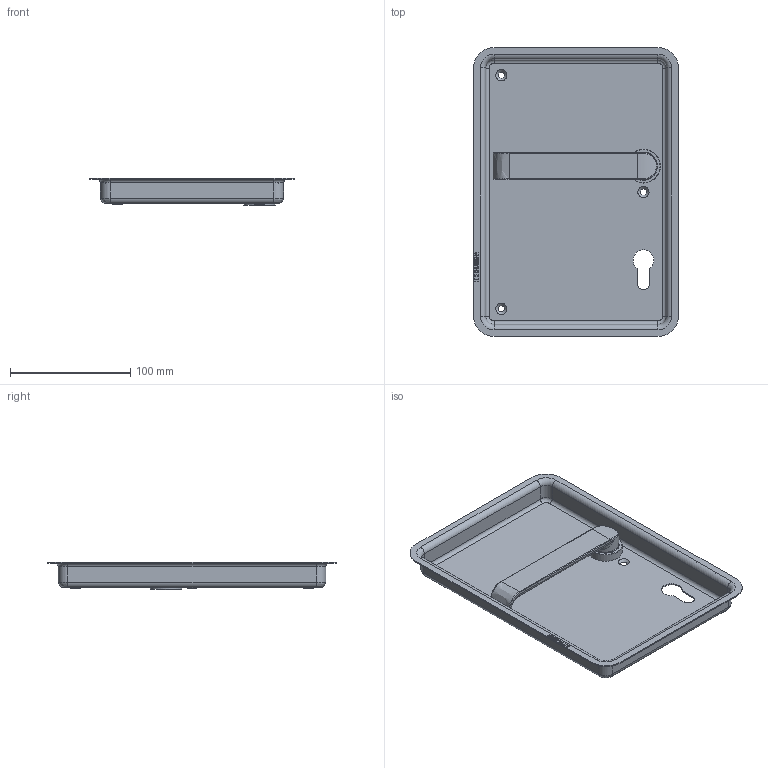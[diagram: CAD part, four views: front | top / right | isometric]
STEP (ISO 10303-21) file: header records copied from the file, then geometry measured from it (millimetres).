
FILE_DESCRIPTION(/* description */ (''),/* implementation_level */ '2;1');
FILE_NAME(/* name */ 'C:\ADSK_DMS_WS\Designs\Vorschläge\Loc Schalen\Muschel Serie 3\S3.20.D1Links\Heusser-Muschel S3.20.D1.378L.stp',/* time_stamp */ '2020-11-21T10:58:38+01:00',/* author */ ('gm'),/* organization */ (''),/* preprocessor_version */ 'ST-DEVELOPER v16.5',/* originating_system */ 'Autodesk Inventor 2017',/* authorisation */ '');
FILE_SCHEMA (('AUTOMOTIVE_DESIGN { 1 0 10303 214 3 1 1 }'));
Length unit declared in the file: millimetre
Products named in the file (1): S3.20.D1.L
Bounding box: 170 x 240 x 23 mm (x, y, z)
Volume: 72405.6 mm3; surface area: 115989.3 mm2
Topology: 1 solids, 2 shells, 308 faces, 769 edges, 488 vertices
Faces by surface type: plane 132, bspline 82, cylinder 63, cone 16, torus 15
Full cylindrical faces by diameter (mm): 1.7 x2, 6 x1, 14.2 x1, 16 x3, 18 x1, 19 x1, 19.1 x1, 22 x1, 23 x1, 23.2 x1, 24 x1, 25 x1, 26 x1, 28 x1
Entity records: 10271 total; most frequent: CARTESIAN_POINT 3041, ORIENTED_EDGE 1452, DIRECTION 1276, EDGE_CURVE 726, VERTEX_POINT 482, AXIS2_PLACEMENT_3D 437, LINE 402, VECTOR 402
